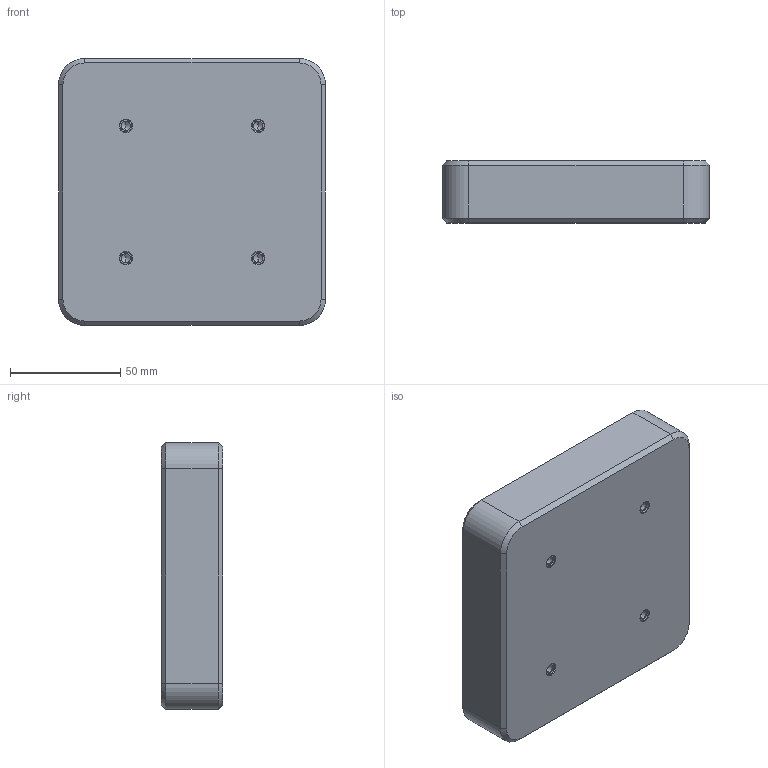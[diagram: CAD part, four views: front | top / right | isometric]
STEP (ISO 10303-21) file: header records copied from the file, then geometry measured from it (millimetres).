
FILE_DESCRIPTION (( 'STEP AP203' ), '1' );
FILE_NAME ('130334.0001.4V-QP022-S-125-M6.STEP', '2016-10-10T09:26:51', ( '' ), ( '' ), 'SwSTEP 2.0', 'SolidWorks 2016', '' );
FILE_SCHEMA (( 'CONFIG_CONTROL_DESIGN' ));
Length unit declared in the file: millimetre
Products named in the file (1): 130334.0001.4V-QP022-S-125-M6
Bounding box: 121 x 28 x 121 mm (x, y, z)
Volume: 396196.2 mm3; surface area: 47642.3 mm2
Topology: 1 solids, 1 shells, 162 faces, 386 edges, 201 vertices
Faces by surface type: cone 74, cylinder 70, plane 18
Entity records: 4301 total; most frequent: DIRECTION 810, CARTESIAN_POINT 692, ORIENTED_EDGE 656, EDGE_CURVE 328, AXIS2_PLACEMENT_3D 319, VERTEX_POINT 201, EDGE_LOOP 195, LINE 172
